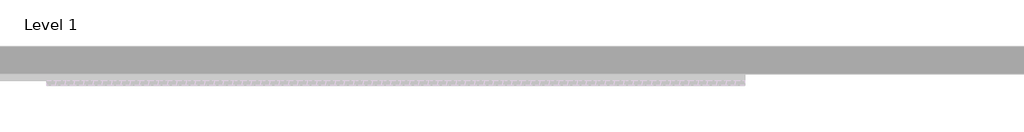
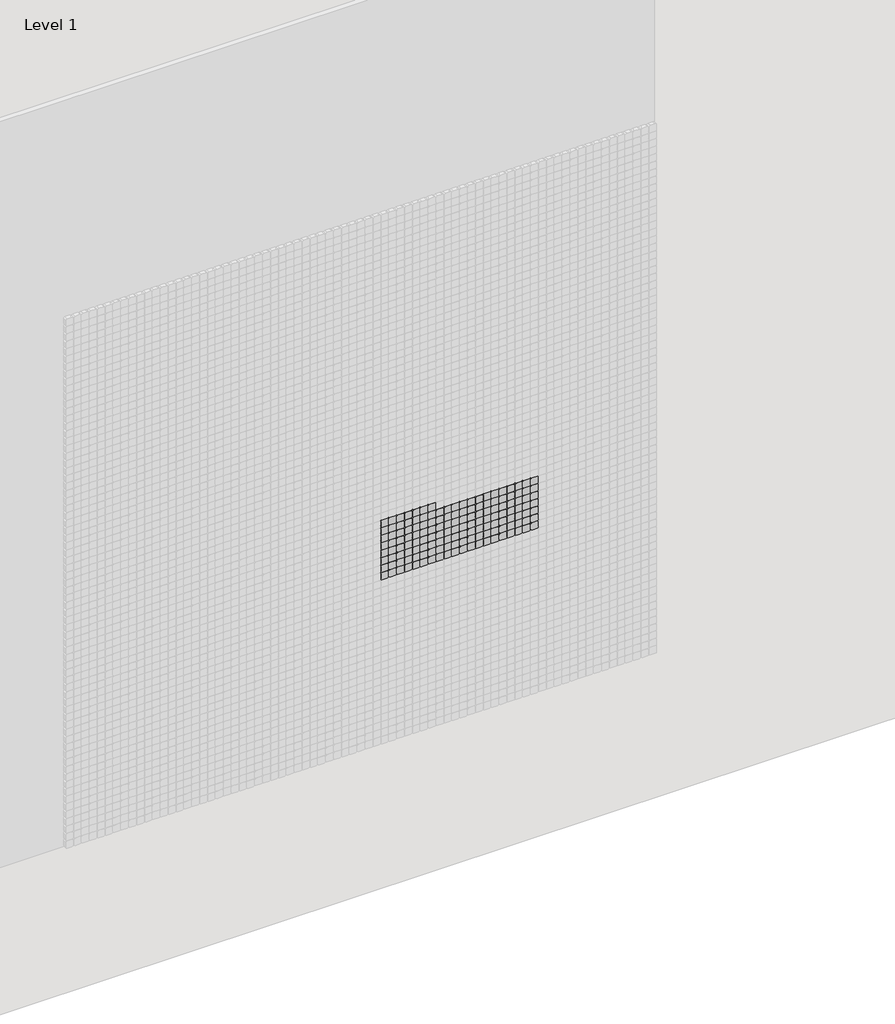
# One storey, part 58 of 71: 147 proxies.
"""IFC4 building model written with IfcOpenShell, lengths in millimetres."""

from ifc_helpers import new_model, si_unit, origin, place, context, project, spatial, transform, mapped, element, save
from components import generic_models_afde289c

model = new_model("IFC4")

# Units and contexts
model_context = context("Model", 3, world=origin())
ifc_project = project(units=[si_unit("LENGTHUNIT", "METRE", prefix="MILLI")], contexts=[model_context])

# Site, building, storey
site = spatial("IfcSite", under=ifc_project)
building = spatial("IfcBuilding", under=site)
storey = spatial("IfcBuildingStorey", under=building, Name="Level 1", Elevation=0.0)

# Proxies
placement = place(None, origin())
generic_models_shape = generic_models_afde289c(model_context)
element("IfcBuildingElementProxy", 1, Name="Pixel_M : Pixel_M", ObjectType="Pixel_M : Pixel_M", at=placement, inside=storey, context=model_context, shape_type="MappedRepresentation", body=[
    mapped(generic_models_shape, transform((8312.4280941, -75.0, 2466.3566215), x_axis=(1.0, 0.0, 0.0), y_axis=(0.0, 0.0, 1.0), z_axis=(0.0, -1.0, 0.0))),
])
element("IfcBuildingElementProxy", 2, Name="Pixel_M : Pixel_M", ObjectType="Pixel_M : Pixel_M", at=placement, inside=storey, context=model_context, shape_type="MappedRepresentation", body=[
    mapped(generic_models_shape, transform((8262.4280941, -75.0, 2466.3566215), x_axis=(1.0, 0.0, 0.0), y_axis=(0.0, 0.0, 1.0), z_axis=(0.0, -1.0, 0.0))),
])
element("IfcBuildingElementProxy", 3, Name="Pixel_M : Pixel_M", ObjectType="Pixel_M : Pixel_M", at=placement, inside=storey, context=model_context, shape_type="MappedRepresentation", body=[
    mapped(generic_models_shape, transform((8212.4280941, -75.0, 2466.3566215), x_axis=(1.0, 0.0, 0.0), y_axis=(0.0, 0.0, 1.0), z_axis=(0.0, -1.0, 0.0))),
])
element("IfcBuildingElementProxy", 4, Name="Pixel_M : Pixel_M", ObjectType="Pixel_M : Pixel_M", at=placement, inside=storey, context=model_context, shape_type="MappedRepresentation", body=[
    mapped(generic_models_shape, transform((8162.4280941, -75.0, 2466.3566215), x_axis=(1.0, 0.0, 0.0), y_axis=(0.0, 0.0, 1.0), z_axis=(0.0, -1.0, 0.0))),
])
element("IfcBuildingElementProxy", 5, Name="Pixel_M : Pixel_M", ObjectType="Pixel_M : Pixel_M", at=placement, inside=storey, context=model_context, shape_type="MappedRepresentation", body=[
    mapped(generic_models_shape, transform((8112.4280941, -75.0, 2466.3566215), x_axis=(1.0, 0.0, 0.0), y_axis=(0.0, 0.0, 1.0), z_axis=(0.0, -1.0, 0.0))),
])
element("IfcBuildingElementProxy", 6, Name="Pixel_M : Pixel_M", ObjectType="Pixel_M : Pixel_M", at=placement, inside=storey, context=model_context, shape_type="MappedRepresentation", body=[
    mapped(generic_models_shape, transform((8062.4280941, -75.0, 2466.3566215), x_axis=(1.0, 0.0, 0.0), y_axis=(0.0, 0.0, 1.0), z_axis=(0.0, -1.0, 0.0))),
])
element("IfcBuildingElementProxy", 7, Name="Pixel_M : Pixel_M", ObjectType="Pixel_M : Pixel_M", at=placement, inside=storey, context=model_context, shape_type="MappedRepresentation", body=[
    mapped(generic_models_shape, transform((8012.4280941, -75.0, 2466.3566215), x_axis=(1.0, 0.0, 0.0), y_axis=(0.0, 0.0, 1.0), z_axis=(0.0, -1.0, 0.0))),
])
element("IfcBuildingElementProxy", 8, Name="Pixel_M : Pixel_M", ObjectType="Pixel_M : Pixel_M", at=placement, inside=storey, context=model_context, shape_type="MappedRepresentation", body=[
    mapped(generic_models_shape, transform((8962.4280941, -75.0, 2416.3566215), x_axis=(1.0, 0.0, 0.0), y_axis=(0.0, 0.0, 1.0), z_axis=(0.0, -1.0, 0.0))),
])
element("IfcBuildingElementProxy", 9, Name="Pixel_M : Pixel_M", ObjectType="Pixel_M : Pixel_M", at=placement, inside=storey, context=model_context, shape_type="MappedRepresentation", body=[
    mapped(generic_models_shape, transform((8912.4280941, -75.0, 2416.3566215), x_axis=(1.0, 0.0, 0.0), y_axis=(0.0, 0.0, 1.0), z_axis=(0.0, -1.0, 0.0))),
])
element("IfcBuildingElementProxy", 10, Name="Pixel_M : Pixel_M", ObjectType="Pixel_M : Pixel_M", at=placement, inside=storey, context=model_context, shape_type="MappedRepresentation", body=[
    mapped(generic_models_shape, transform((8862.4280941, -75.0, 2416.3566215), x_axis=(1.0, 0.0, 0.0), y_axis=(0.0, 0.0, 1.0), z_axis=(0.0, -1.0, 0.0))),
])
element("IfcBuildingElementProxy", 11, Name="Pixel_M : Pixel_M", ObjectType="Pixel_M : Pixel_M", at=placement, inside=storey, context=model_context, shape_type="MappedRepresentation", body=[
    mapped(generic_models_shape, transform((8812.4280941, -75.0, 2416.3566215), x_axis=(1.0, 0.0, 0.0), y_axis=(0.0, 0.0, 1.0), z_axis=(0.0, -1.0, 0.0))),
])
element("IfcBuildingElementProxy", 12, Name="Pixel_M : Pixel_M", ObjectType="Pixel_M : Pixel_M", at=placement, inside=storey, context=model_context, shape_type="MappedRepresentation", body=[
    mapped(generic_models_shape, transform((8762.4280941, -75.0, 2416.3566215), x_axis=(1.0, 0.0, 0.0), y_axis=(0.0, 0.0, 1.0), z_axis=(0.0, -1.0, 0.0))),
])
element("IfcBuildingElementProxy", 13, Name="Pixel_M : Pixel_M", ObjectType="Pixel_M : Pixel_M", at=placement, inside=storey, context=model_context, shape_type="MappedRepresentation", body=[
    mapped(generic_models_shape, transform((8712.4280941, -75.0, 2416.3566215), x_axis=(1.0, 0.0, 0.0), y_axis=(0.0, 0.0, 1.0), z_axis=(0.0, -1.0, 0.0))),
])
element("IfcBuildingElementProxy", 14, Name="Pixel_M : Pixel_M", ObjectType="Pixel_M : Pixel_M", at=placement, inside=storey, context=model_context, shape_type="MappedRepresentation", body=[
    mapped(generic_models_shape, transform((8662.4280941, -75.0, 2416.3566215), x_axis=(1.0, 0.0, 0.0), y_axis=(0.0, 0.0, 1.0), z_axis=(0.0, -1.0, 0.0))),
])
element("IfcBuildingElementProxy", 15, Name="Pixel_M : Pixel_M", ObjectType="Pixel_M : Pixel_M", at=placement, inside=storey, context=model_context, shape_type="MappedRepresentation", body=[
    mapped(generic_models_shape, transform((8612.4280941, -75.0, 2416.3566215), x_axis=(1.0, 0.0, 0.0), y_axis=(0.0, 0.0, 1.0), z_axis=(0.0, -1.0, 0.0))),
])
element("IfcBuildingElementProxy", 16, Name="Pixel_M : Pixel_M", ObjectType="Pixel_M : Pixel_M", at=placement, inside=storey, context=model_context, shape_type="MappedRepresentation", body=[
    mapped(generic_models_shape, transform((8562.4280941, -75.0, 2416.3566215), x_axis=(1.0, 0.0, 0.0), y_axis=(0.0, 0.0, 1.0), z_axis=(0.0, -1.0, 0.0))),
])
element("IfcBuildingElementProxy", 17, Name="Pixel_M : Pixel_M", ObjectType="Pixel_M : Pixel_M", at=placement, inside=storey, context=model_context, shape_type="MappedRepresentation", body=[
    mapped(generic_models_shape, transform((8512.4280941, -75.0, 2416.3566215), x_axis=(1.0, 0.0, 0.0), y_axis=(0.0, 0.0, 1.0), z_axis=(0.0, -1.0, 0.0))),
])
element("IfcBuildingElementProxy", 18, Name="Pixel_M : Pixel_M", ObjectType="Pixel_M : Pixel_M", at=placement, inside=storey, context=model_context, shape_type="MappedRepresentation", body=[
    mapped(generic_models_shape, transform((8462.4280941, -75.0, 2416.3566215), x_axis=(1.0, 0.0, 0.0), y_axis=(0.0, 0.0, 1.0), z_axis=(0.0, -1.0, 0.0))),
])
element("IfcBuildingElementProxy", 19, Name="Pixel_M : Pixel_M", ObjectType="Pixel_M : Pixel_M", at=placement, inside=storey, context=model_context, shape_type="MappedRepresentation", body=[
    mapped(generic_models_shape, transform((8412.4280941, -75.0, 2416.3566215), x_axis=(1.0, 0.0, 0.0), y_axis=(0.0, 0.0, 1.0), z_axis=(0.0, -1.0, 0.0))),
])
element("IfcBuildingElementProxy", 20, Name="Pixel_M : Pixel_M", ObjectType="Pixel_M : Pixel_M", at=placement, inside=storey, context=model_context, shape_type="MappedRepresentation", body=[
    mapped(generic_models_shape, transform((8362.4280941, -75.0, 2416.3566215), x_axis=(1.0, 0.0, 0.0), y_axis=(0.0, 0.0, 1.0), z_axis=(0.0, -1.0, 0.0))),
])
element("IfcBuildingElementProxy", 21, Name="Pixel_M : Pixel_M", ObjectType="Pixel_M : Pixel_M", at=placement, inside=storey, context=model_context, shape_type="MappedRepresentation", body=[
    mapped(generic_models_shape, transform((8312.4280941, -75.0, 2416.3566215), x_axis=(1.0, 0.0, 0.0), y_axis=(0.0, 0.0, 1.0), z_axis=(0.0, -1.0, 0.0))),
])
element("IfcBuildingElementProxy", 22, Name="Pixel_M : Pixel_M", ObjectType="Pixel_M : Pixel_M", at=placement, inside=storey, context=model_context, shape_type="MappedRepresentation", body=[
    mapped(generic_models_shape, transform((8262.4280941, -75.0, 2416.3566215), x_axis=(1.0, 0.0, 0.0), y_axis=(0.0, 0.0, 1.0), z_axis=(0.0, -1.0, 0.0))),
])
element("IfcBuildingElementProxy", 23, Name="Pixel_M : Pixel_M", ObjectType="Pixel_M : Pixel_M", at=placement, inside=storey, context=model_context, shape_type="MappedRepresentation", body=[
    mapped(generic_models_shape, transform((8212.4280941, -75.0, 2416.3566215), x_axis=(1.0, 0.0, 0.0), y_axis=(0.0, 0.0, 1.0), z_axis=(0.0, -1.0, 0.0))),
])
element("IfcBuildingElementProxy", 24, Name="Pixel_M : Pixel_M", ObjectType="Pixel_M : Pixel_M", at=placement, inside=storey, context=model_context, shape_type="MappedRepresentation", body=[
    mapped(generic_models_shape, transform((8162.4280941, -75.0, 2416.3566215), x_axis=(1.0, 0.0, 0.0), y_axis=(0.0, 0.0, 1.0), z_axis=(0.0, -1.0, 0.0))),
])
element("IfcBuildingElementProxy", 25, Name="Pixel_M : Pixel_M", ObjectType="Pixel_M : Pixel_M", at=placement, inside=storey, context=model_context, shape_type="MappedRepresentation", body=[
    mapped(generic_models_shape, transform((8112.4280941, -75.0, 2416.3566215), x_axis=(1.0, 0.0, 0.0), y_axis=(0.0, 0.0, 1.0), z_axis=(0.0, -1.0, 0.0))),
])
element("IfcBuildingElementProxy", 26, Name="Pixel_M : Pixel_M", ObjectType="Pixel_M : Pixel_M", at=placement, inside=storey, context=model_context, shape_type="MappedRepresentation", body=[
    mapped(generic_models_shape, transform((8062.4280941, -75.0, 2416.3566215), x_axis=(1.0, 0.0, 0.0), y_axis=(0.0, 0.0, 1.0), z_axis=(0.0, -1.0, 0.0))),
])
element("IfcBuildingElementProxy", 27, Name="Pixel_M : Pixel_M", ObjectType="Pixel_M : Pixel_M", at=placement, inside=storey, context=model_context, shape_type="MappedRepresentation", body=[
    mapped(generic_models_shape, transform((8012.4280941, -75.0, 2416.3566215), x_axis=(1.0, 0.0, 0.0), y_axis=(0.0, 0.0, 1.0), z_axis=(0.0, -1.0, 0.0))),
])
element("IfcBuildingElementProxy", 28, Name="Pixel_M : Pixel_M", ObjectType="Pixel_M : Pixel_M", at=placement, inside=storey, context=model_context, shape_type="MappedRepresentation", body=[
    mapped(generic_models_shape, transform((8962.4280941, -75.0, 2366.3566215), x_axis=(1.0, 0.0, 0.0), y_axis=(0.0, 0.0, 1.0), z_axis=(0.0, -1.0, 0.0))),
])
element("IfcBuildingElementProxy", 29, Name="Pixel_M : Pixel_M", ObjectType="Pixel_M : Pixel_M", at=placement, inside=storey, context=model_context, shape_type="MappedRepresentation", body=[
    mapped(generic_models_shape, transform((8912.4280941, -75.0, 2366.3566215), x_axis=(1.0, 0.0, 0.0), y_axis=(0.0, 0.0, 1.0), z_axis=(0.0, -1.0, 0.0))),
])
element("IfcBuildingElementProxy", 30, Name="Pixel_M : Pixel_M", ObjectType="Pixel_M : Pixel_M", at=placement, inside=storey, context=model_context, shape_type="MappedRepresentation", body=[
    mapped(generic_models_shape, transform((8862.4280941, -75.0, 2366.3566215), x_axis=(1.0, 0.0, 0.0), y_axis=(0.0, 0.0, 1.0), z_axis=(0.0, -1.0, 0.0))),
])
element("IfcBuildingElementProxy", 31, Name="Pixel_M : Pixel_M", ObjectType="Pixel_M : Pixel_M", at=placement, inside=storey, context=model_context, shape_type="MappedRepresentation", body=[
    mapped(generic_models_shape, transform((8812.4280941, -75.0, 2366.3566215), x_axis=(1.0, 0.0, 0.0), y_axis=(0.0, 0.0, 1.0), z_axis=(0.0, -1.0, 0.0))),
])
element("IfcBuildingElementProxy", 32, Name="Pixel_M : Pixel_M", ObjectType="Pixel_M : Pixel_M", at=placement, inside=storey, context=model_context, shape_type="MappedRepresentation", body=[
    mapped(generic_models_shape, transform((8762.4280941, -75.0, 2366.3566215), x_axis=(1.0, 0.0, 0.0), y_axis=(0.0, 0.0, 1.0), z_axis=(0.0, -1.0, 0.0))),
])
element("IfcBuildingElementProxy", 33, Name="Pixel_M : Pixel_M", ObjectType="Pixel_M : Pixel_M", at=placement, inside=storey, context=model_context, shape_type="MappedRepresentation", body=[
    mapped(generic_models_shape, transform((8712.4280941, -75.0, 2366.3566215), x_axis=(1.0, 0.0, 0.0), y_axis=(0.0, 0.0, 1.0), z_axis=(0.0, -1.0, 0.0))),
])
element("IfcBuildingElementProxy", 34, Name="Pixel_M : Pixel_M", ObjectType="Pixel_M : Pixel_M", at=placement, inside=storey, context=model_context, shape_type="MappedRepresentation", body=[
    mapped(generic_models_shape, transform((8662.4280941, -75.0, 2366.3566215), x_axis=(1.0, 0.0, 0.0), y_axis=(0.0, 0.0, 1.0), z_axis=(0.0, -1.0, 0.0))),
])
element("IfcBuildingElementProxy", 35, Name="Pixel_M : Pixel_M", ObjectType="Pixel_M : Pixel_M", at=placement, inside=storey, context=model_context, shape_type="MappedRepresentation", body=[
    mapped(generic_models_shape, transform((8612.4280941, -75.0, 2366.3566215), x_axis=(1.0, 0.0, 0.0), y_axis=(0.0, 0.0, 1.0), z_axis=(0.0, -1.0, 0.0))),
])
element("IfcBuildingElementProxy", 36, Name="Pixel_M : Pixel_M", ObjectType="Pixel_M : Pixel_M", at=placement, inside=storey, context=model_context, shape_type="MappedRepresentation", body=[
    mapped(generic_models_shape, transform((8562.4280941, -75.0, 2366.3566215), x_axis=(1.0, 0.0, 0.0), y_axis=(0.0, 0.0, 1.0), z_axis=(0.0, -1.0, 0.0))),
])
element("IfcBuildingElementProxy", 37, Name="Pixel_M : Pixel_M", ObjectType="Pixel_M : Pixel_M", at=placement, inside=storey, context=model_context, shape_type="MappedRepresentation", body=[
    mapped(generic_models_shape, transform((8512.4280941, -75.0, 2366.3566215), x_axis=(1.0, 0.0, 0.0), y_axis=(0.0, 0.0, 1.0), z_axis=(0.0, -1.0, 0.0))),
])
element("IfcBuildingElementProxy", 38, Name="Pixel_M : Pixel_M", ObjectType="Pixel_M : Pixel_M", at=placement, inside=storey, context=model_context, shape_type="MappedRepresentation", body=[
    mapped(generic_models_shape, transform((8462.4280941, -75.0, 2366.3566215), x_axis=(1.0, 0.0, 0.0), y_axis=(0.0, 0.0, 1.0), z_axis=(0.0, -1.0, 0.0))),
])
element("IfcBuildingElementProxy", 39, Name="Pixel_M : Pixel_M", ObjectType="Pixel_M : Pixel_M", at=placement, inside=storey, context=model_context, shape_type="MappedRepresentation", body=[
    mapped(generic_models_shape, transform((8412.4280941, -75.0, 2366.3566215), x_axis=(1.0, 0.0, 0.0), y_axis=(0.0, 0.0, 1.0), z_axis=(0.0, -1.0, 0.0))),
])
element("IfcBuildingElementProxy", 40, Name="Pixel_M : Pixel_M", ObjectType="Pixel_M : Pixel_M", at=placement, inside=storey, context=model_context, shape_type="MappedRepresentation", body=[
    mapped(generic_models_shape, transform((8362.4280941, -75.0, 2366.3566215), x_axis=(1.0, 0.0, 0.0), y_axis=(0.0, 0.0, 1.0), z_axis=(0.0, -1.0, 0.0))),
])
element("IfcBuildingElementProxy", 41, Name="Pixel_M : Pixel_M", ObjectType="Pixel_M : Pixel_M", at=placement, inside=storey, context=model_context, shape_type="MappedRepresentation", body=[
    mapped(generic_models_shape, transform((8312.4280941, -75.0, 2366.3566215), x_axis=(1.0, 0.0, 0.0), y_axis=(0.0, 0.0, 1.0), z_axis=(0.0, -1.0, 0.0))),
])
element("IfcBuildingElementProxy", 42, Name="Pixel_M : Pixel_M", ObjectType="Pixel_M : Pixel_M", at=placement, inside=storey, context=model_context, shape_type="MappedRepresentation", body=[
    mapped(generic_models_shape, transform((8262.4280941, -75.0, 2366.3566215), x_axis=(1.0, 0.0, 0.0), y_axis=(0.0, 0.0, 1.0), z_axis=(0.0, -1.0, 0.0))),
])
element("IfcBuildingElementProxy", 43, Name="Pixel_M : Pixel_M", ObjectType="Pixel_M : Pixel_M", at=placement, inside=storey, context=model_context, shape_type="MappedRepresentation", body=[
    mapped(generic_models_shape, transform((8212.4280941, -75.0, 2366.3566215), x_axis=(1.0, 0.0, 0.0), y_axis=(0.0, 0.0, 1.0), z_axis=(0.0, -1.0, 0.0))),
])
element("IfcBuildingElementProxy", 44, Name="Pixel_M : Pixel_M", ObjectType="Pixel_M : Pixel_M", at=placement, inside=storey, context=model_context, shape_type="MappedRepresentation", body=[
    mapped(generic_models_shape, transform((8162.4280941, -75.0, 2366.3566215), x_axis=(1.0, 0.0, 0.0), y_axis=(0.0, 0.0, 1.0), z_axis=(0.0, -1.0, 0.0))),
])
element("IfcBuildingElementProxy", 45, Name="Pixel_M : Pixel_M", ObjectType="Pixel_M : Pixel_M", at=placement, inside=storey, context=model_context, shape_type="MappedRepresentation", body=[
    mapped(generic_models_shape, transform((8112.4280941, -75.0, 2366.3566215), x_axis=(1.0, 0.0, 0.0), y_axis=(0.0, 0.0, 1.0), z_axis=(0.0, -1.0, 0.0))),
])
element("IfcBuildingElementProxy", 46, Name="Pixel_M : Pixel_M", ObjectType="Pixel_M : Pixel_M", at=placement, inside=storey, context=model_context, shape_type="MappedRepresentation", body=[
    mapped(generic_models_shape, transform((8062.4280941, -75.0, 2366.3566215), x_axis=(1.0, 0.0, 0.0), y_axis=(0.0, 0.0, 1.0), z_axis=(0.0, -1.0, 0.0))),
])
element("IfcBuildingElementProxy", 47, Name="Pixel_M : Pixel_M", ObjectType="Pixel_M : Pixel_M", at=placement, inside=storey, context=model_context, shape_type="MappedRepresentation", body=[
    mapped(generic_models_shape, transform((8012.4280941, -75.0, 2366.3566215), x_axis=(1.0, 0.0, 0.0), y_axis=(0.0, 0.0, 1.0), z_axis=(0.0, -1.0, 0.0))),
])
element("IfcBuildingElementProxy", 48, Name="Pixel_M : Pixel_M", ObjectType="Pixel_M : Pixel_M", at=placement, inside=storey, context=model_context, shape_type="MappedRepresentation", body=[
    mapped(generic_models_shape, transform((8962.4280941, -75.0, 2316.3566215), x_axis=(1.0, 0.0, 0.0), y_axis=(0.0, 0.0, 1.0), z_axis=(0.0, -1.0, 0.0))),
])
element("IfcBuildingElementProxy", 49, Name="Pixel_M : Pixel_M", ObjectType="Pixel_M : Pixel_M", at=placement, inside=storey, context=model_context, shape_type="MappedRepresentation", body=[
    mapped(generic_models_shape, transform((8912.4280941, -75.0, 2316.3566215), x_axis=(1.0, 0.0, 0.0), y_axis=(0.0, 0.0, 1.0), z_axis=(0.0, -1.0, 0.0))),
])
element("IfcBuildingElementProxy", 50, Name="Pixel_M : Pixel_M", ObjectType="Pixel_M : Pixel_M", at=placement, inside=storey, context=model_context, shape_type="MappedRepresentation", body=[
    mapped(generic_models_shape, transform((8862.4280941, -75.0, 2316.3566215), x_axis=(1.0, 0.0, 0.0), y_axis=(0.0, 0.0, 1.0), z_axis=(0.0, -1.0, 0.0))),
])
element("IfcBuildingElementProxy", 51, Name="Pixel_M : Pixel_M", ObjectType="Pixel_M : Pixel_M", at=placement, inside=storey, context=model_context, shape_type="MappedRepresentation", body=[
    mapped(generic_models_shape, transform((8812.4280941, -75.0, 2316.3566215), x_axis=(1.0, 0.0, 0.0), y_axis=(0.0, 0.0, 1.0), z_axis=(0.0, -1.0, 0.0))),
])
element("IfcBuildingElementProxy", 52, Name="Pixel_M : Pixel_M", ObjectType="Pixel_M : Pixel_M", at=placement, inside=storey, context=model_context, shape_type="MappedRepresentation", body=[
    mapped(generic_models_shape, transform((8762.4280941, -75.0, 2316.3566215), x_axis=(1.0, 0.0, 0.0), y_axis=(0.0, 0.0, 1.0), z_axis=(0.0, -1.0, 0.0))),
])
element("IfcBuildingElementProxy", 53, Name="Pixel_M : Pixel_M", ObjectType="Pixel_M : Pixel_M", at=placement, inside=storey, context=model_context, shape_type="MappedRepresentation", body=[
    mapped(generic_models_shape, transform((8712.4280941, -75.0, 2316.3566215), x_axis=(1.0, 0.0, 0.0), y_axis=(0.0, 0.0, 1.0), z_axis=(0.0, -1.0, 0.0))),
])
element("IfcBuildingElementProxy", 54, Name="Pixel_M : Pixel_M", ObjectType="Pixel_M : Pixel_M", at=placement, inside=storey, context=model_context, shape_type="MappedRepresentation", body=[
    mapped(generic_models_shape, transform((8662.4280941, -75.0, 2316.3566215), x_axis=(1.0, 0.0, 0.0), y_axis=(0.0, 0.0, 1.0), z_axis=(0.0, -1.0, 0.0))),
])
element("IfcBuildingElementProxy", 55, Name="Pixel_M : Pixel_M", ObjectType="Pixel_M : Pixel_M", at=placement, inside=storey, context=model_context, shape_type="MappedRepresentation", body=[
    mapped(generic_models_shape, transform((8612.4280941, -75.0, 2316.3566215), x_axis=(1.0, 0.0, 0.0), y_axis=(0.0, 0.0, 1.0), z_axis=(0.0, -1.0, 0.0))),
])
element("IfcBuildingElementProxy", 56, Name="Pixel_M : Pixel_M", ObjectType="Pixel_M : Pixel_M", at=placement, inside=storey, context=model_context, shape_type="MappedRepresentation", body=[
    mapped(generic_models_shape, transform((8562.4280941, -75.0, 2316.3566215), x_axis=(1.0, 0.0, 0.0), y_axis=(0.0, 0.0, 1.0), z_axis=(0.0, -1.0, 0.0))),
])
element("IfcBuildingElementProxy", 57, Name="Pixel_M : Pixel_M", ObjectType="Pixel_M : Pixel_M", at=placement, inside=storey, context=model_context, shape_type="MappedRepresentation", body=[
    mapped(generic_models_shape, transform((8512.4280941, -75.0, 2316.3566215), x_axis=(1.0, 0.0, 0.0), y_axis=(0.0, 0.0, 1.0), z_axis=(0.0, -1.0, 0.0))),
])
element("IfcBuildingElementProxy", 58, Name="Pixel_M : Pixel_M", ObjectType="Pixel_M : Pixel_M", at=placement, inside=storey, context=model_context, shape_type="MappedRepresentation", body=[
    mapped(generic_models_shape, transform((8462.4280941, -75.0, 2316.3566215), x_axis=(1.0, 0.0, 0.0), y_axis=(0.0, 0.0, 1.0), z_axis=(0.0, -1.0, 0.0))),
])
element("IfcBuildingElementProxy", 59, Name="Pixel_M : Pixel_M", ObjectType="Pixel_M : Pixel_M", at=placement, inside=storey, context=model_context, shape_type="MappedRepresentation", body=[
    mapped(generic_models_shape, transform((8412.4280941, -75.0, 2316.3566215), x_axis=(1.0, 0.0, 0.0), y_axis=(0.0, 0.0, 1.0), z_axis=(0.0, -1.0, 0.0))),
])
element("IfcBuildingElementProxy", 60, Name="Pixel_M : Pixel_M", ObjectType="Pixel_M : Pixel_M", at=placement, inside=storey, context=model_context, shape_type="MappedRepresentation", body=[
    mapped(generic_models_shape, transform((8362.4280941, -75.0, 2316.3566215), x_axis=(1.0, 0.0, 0.0), y_axis=(0.0, 0.0, 1.0), z_axis=(0.0, -1.0, 0.0))),
])
element("IfcBuildingElementProxy", 61, Name="Pixel_M : Pixel_M", ObjectType="Pixel_M : Pixel_M", at=placement, inside=storey, context=model_context, shape_type="MappedRepresentation", body=[
    mapped(generic_models_shape, transform((8312.4280941, -75.0, 2316.3566215), x_axis=(1.0, 0.0, 0.0), y_axis=(0.0, 0.0, 1.0), z_axis=(0.0, -1.0, 0.0))),
])
element("IfcBuildingElementProxy", 62, Name="Pixel_M : Pixel_M", ObjectType="Pixel_M : Pixel_M", at=placement, inside=storey, context=model_context, shape_type="MappedRepresentation", body=[
    mapped(generic_models_shape, transform((8262.4280941, -75.0, 2316.3566215), x_axis=(1.0, 0.0, 0.0), y_axis=(0.0, 0.0, 1.0), z_axis=(0.0, -1.0, 0.0))),
])
element("IfcBuildingElementProxy", 63, Name="Pixel_M : Pixel_M", ObjectType="Pixel_M : Pixel_M", at=placement, inside=storey, context=model_context, shape_type="MappedRepresentation", body=[
    mapped(generic_models_shape, transform((8212.4280941, -75.0, 2316.3566215), x_axis=(1.0, 0.0, 0.0), y_axis=(0.0, 0.0, 1.0), z_axis=(0.0, -1.0, 0.0))),
])
element("IfcBuildingElementProxy", 64, Name="Pixel_M : Pixel_M", ObjectType="Pixel_M : Pixel_M", at=placement, inside=storey, context=model_context, shape_type="MappedRepresentation", body=[
    mapped(generic_models_shape, transform((8162.4280941, -75.0, 2316.3566215), x_axis=(1.0, 0.0, 0.0), y_axis=(0.0, 0.0, 1.0), z_axis=(0.0, -1.0, 0.0))),
])
element("IfcBuildingElementProxy", 65, Name="Pixel_M : Pixel_M", ObjectType="Pixel_M : Pixel_M", at=placement, inside=storey, context=model_context, shape_type="MappedRepresentation", body=[
    mapped(generic_models_shape, transform((8112.4280941, -75.0, 2316.3566215), x_axis=(1.0, 0.0, 0.0), y_axis=(0.0, 0.0, 1.0), z_axis=(0.0, -1.0, 0.0))),
])
element("IfcBuildingElementProxy", 66, Name="Pixel_M : Pixel_M", ObjectType="Pixel_M : Pixel_M", at=placement, inside=storey, context=model_context, shape_type="MappedRepresentation", body=[
    mapped(generic_models_shape, transform((8062.4280941, -75.0, 2316.3566215), x_axis=(1.0, 0.0, 0.0), y_axis=(0.0, 0.0, 1.0), z_axis=(0.0, -1.0, 0.0))),
])
element("IfcBuildingElementProxy", 67, Name="Pixel_M : Pixel_M", ObjectType="Pixel_M : Pixel_M", at=placement, inside=storey, context=model_context, shape_type="MappedRepresentation", body=[
    mapped(generic_models_shape, transform((8012.4280941, -75.0, 2316.3566215), x_axis=(1.0, 0.0, 0.0), y_axis=(0.0, 0.0, 1.0), z_axis=(0.0, -1.0, 0.0))),
])
element("IfcBuildingElementProxy", 68, Name="Pixel_M : Pixel_M", ObjectType="Pixel_M : Pixel_M", at=placement, inside=storey, context=model_context, shape_type="MappedRepresentation", body=[
    mapped(generic_models_shape, transform((8962.4280941, -75.0, 2266.3566215), x_axis=(1.0, 0.0, 0.0), y_axis=(0.0, 0.0, 1.0), z_axis=(0.0, -1.0, 0.0))),
])
element("IfcBuildingElementProxy", 69, Name="Pixel_M : Pixel_M", ObjectType="Pixel_M : Pixel_M", at=placement, inside=storey, context=model_context, shape_type="MappedRepresentation", body=[
    mapped(generic_models_shape, transform((8912.4280941, -75.0, 2266.3566215), x_axis=(1.0, 0.0, 0.0), y_axis=(0.0, 0.0, 1.0), z_axis=(0.0, -1.0, 0.0))),
])
element("IfcBuildingElementProxy", 70, Name="Pixel_M : Pixel_M", ObjectType="Pixel_M : Pixel_M", at=placement, inside=storey, context=model_context, shape_type="MappedRepresentation", body=[
    mapped(generic_models_shape, transform((8862.4280941, -75.0, 2266.3566215), x_axis=(1.0, 0.0, 0.0), y_axis=(0.0, 0.0, 1.0), z_axis=(0.0, -1.0, 0.0))),
])
element("IfcBuildingElementProxy", 71, Name="Pixel_M : Pixel_M", ObjectType="Pixel_M : Pixel_M", at=placement, inside=storey, context=model_context, shape_type="MappedRepresentation", body=[
    mapped(generic_models_shape, transform((8812.4280941, -75.0, 2266.3566215), x_axis=(1.0, 0.0, 0.0), y_axis=(0.0, 0.0, 1.0), z_axis=(0.0, -1.0, 0.0))),
])
element("IfcBuildingElementProxy", 72, Name="Pixel_M : Pixel_M", ObjectType="Pixel_M : Pixel_M", at=placement, inside=storey, context=model_context, shape_type="MappedRepresentation", body=[
    mapped(generic_models_shape, transform((8762.4280941, -75.0, 2266.3566215), x_axis=(1.0, 0.0, 0.0), y_axis=(0.0, 0.0, 1.0), z_axis=(0.0, -1.0, 0.0))),
])
element("IfcBuildingElementProxy", 73, Name="Pixel_M : Pixel_M", ObjectType="Pixel_M : Pixel_M", at=placement, inside=storey, context=model_context, shape_type="MappedRepresentation", body=[
    mapped(generic_models_shape, transform((8712.4280941, -75.0, 2266.3566215), x_axis=(1.0, 0.0, 0.0), y_axis=(0.0, 0.0, 1.0), z_axis=(0.0, -1.0, 0.0))),
])
element("IfcBuildingElementProxy", 74, Name="Pixel_M : Pixel_M", ObjectType="Pixel_M : Pixel_M", at=placement, inside=storey, context=model_context, shape_type="MappedRepresentation", body=[
    mapped(generic_models_shape, transform((8662.4280941, -75.0, 2266.3566215), x_axis=(1.0, 0.0, 0.0), y_axis=(0.0, 0.0, 1.0), z_axis=(0.0, -1.0, 0.0))),
])
element("IfcBuildingElementProxy", 75, Name="Pixel_M : Pixel_M", ObjectType="Pixel_M : Pixel_M", at=placement, inside=storey, context=model_context, shape_type="MappedRepresentation", body=[
    mapped(generic_models_shape, transform((8612.4280941, -75.0, 2266.3566215), x_axis=(1.0, 0.0, 0.0), y_axis=(0.0, 0.0, 1.0), z_axis=(0.0, -1.0, 0.0))),
])
element("IfcBuildingElementProxy", 76, Name="Pixel_M : Pixel_M", ObjectType="Pixel_M : Pixel_M", at=placement, inside=storey, context=model_context, shape_type="MappedRepresentation", body=[
    mapped(generic_models_shape, transform((8562.4280941, -75.0, 2266.3566215), x_axis=(1.0, 0.0, 0.0), y_axis=(0.0, 0.0, 1.0), z_axis=(0.0, -1.0, 0.0))),
])
element("IfcBuildingElementProxy", 77, Name="Pixel_M : Pixel_M", ObjectType="Pixel_M : Pixel_M", at=placement, inside=storey, context=model_context, shape_type="MappedRepresentation", body=[
    mapped(generic_models_shape, transform((8512.4280941, -75.0, 2266.3566215), x_axis=(1.0, 0.0, 0.0), y_axis=(0.0, 0.0, 1.0), z_axis=(0.0, -1.0, 0.0))),
])
element("IfcBuildingElementProxy", 78, Name="Pixel_M : Pixel_M", ObjectType="Pixel_M : Pixel_M", at=placement, inside=storey, context=model_context, shape_type="MappedRepresentation", body=[
    mapped(generic_models_shape, transform((8462.4280941, -75.0, 2266.3566215), x_axis=(1.0, 0.0, 0.0), y_axis=(0.0, 0.0, 1.0), z_axis=(0.0, -1.0, 0.0))),
])
element("IfcBuildingElementProxy", 79, Name="Pixel_M : Pixel_M", ObjectType="Pixel_M : Pixel_M", at=placement, inside=storey, context=model_context, shape_type="MappedRepresentation", body=[
    mapped(generic_models_shape, transform((8412.4280941, -75.0, 2266.3566215), x_axis=(1.0, 0.0, 0.0), y_axis=(0.0, 0.0, 1.0), z_axis=(0.0, -1.0, 0.0))),
])
element("IfcBuildingElementProxy", 80, Name="Pixel_M : Pixel_M", ObjectType="Pixel_M : Pixel_M", at=placement, inside=storey, context=model_context, shape_type="MappedRepresentation", body=[
    mapped(generic_models_shape, transform((8362.4280941, -75.0, 2266.3566215), x_axis=(1.0, 0.0, 0.0), y_axis=(0.0, 0.0, 1.0), z_axis=(0.0, -1.0, 0.0))),
])
element("IfcBuildingElementProxy", 81, Name="Pixel_M : Pixel_M", ObjectType="Pixel_M : Pixel_M", at=placement, inside=storey, context=model_context, shape_type="MappedRepresentation", body=[
    mapped(generic_models_shape, transform((8312.4280941, -75.0, 2266.3566215), x_axis=(1.0, 0.0, 0.0), y_axis=(0.0, 0.0, 1.0), z_axis=(0.0, -1.0, 0.0))),
])
element("IfcBuildingElementProxy", 82, Name="Pixel_M : Pixel_M", ObjectType="Pixel_M : Pixel_M", at=placement, inside=storey, context=model_context, shape_type="MappedRepresentation", body=[
    mapped(generic_models_shape, transform((8262.4280941, -75.0, 2266.3566215), x_axis=(1.0, 0.0, 0.0), y_axis=(0.0, 0.0, 1.0), z_axis=(0.0, -1.0, 0.0))),
])
element("IfcBuildingElementProxy", 83, Name="Pixel_M : Pixel_M", ObjectType="Pixel_M : Pixel_M", at=placement, inside=storey, context=model_context, shape_type="MappedRepresentation", body=[
    mapped(generic_models_shape, transform((8212.4280941, -75.0, 2266.3566215), x_axis=(1.0, 0.0, 0.0), y_axis=(0.0, 0.0, 1.0), z_axis=(0.0, -1.0, 0.0))),
])
element("IfcBuildingElementProxy", 84, Name="Pixel_M : Pixel_M", ObjectType="Pixel_M : Pixel_M", at=placement, inside=storey, context=model_context, shape_type="MappedRepresentation", body=[
    mapped(generic_models_shape, transform((8162.4280941, -75.0, 2266.3566215), x_axis=(1.0, 0.0, 0.0), y_axis=(0.0, 0.0, 1.0), z_axis=(0.0, -1.0, 0.0))),
])
element("IfcBuildingElementProxy", 85, Name="Pixel_M : Pixel_M", ObjectType="Pixel_M : Pixel_M", at=placement, inside=storey, context=model_context, shape_type="MappedRepresentation", body=[
    mapped(generic_models_shape, transform((8112.4280941, -75.0, 2266.3566215), x_axis=(1.0, 0.0, 0.0), y_axis=(0.0, 0.0, 1.0), z_axis=(0.0, -1.0, 0.0))),
])
element("IfcBuildingElementProxy", 86, Name="Pixel_M : Pixel_M", ObjectType="Pixel_M : Pixel_M", at=placement, inside=storey, context=model_context, shape_type="MappedRepresentation", body=[
    mapped(generic_models_shape, transform((8062.4280941, -75.0, 2266.3566215), x_axis=(1.0, 0.0, 0.0), y_axis=(0.0, 0.0, 1.0), z_axis=(0.0, -1.0, 0.0))),
])
element("IfcBuildingElementProxy", 87, Name="Pixel_M : Pixel_M", ObjectType="Pixel_M : Pixel_M", at=placement, inside=storey, context=model_context, shape_type="MappedRepresentation", body=[
    mapped(generic_models_shape, transform((8012.4280941, -75.0, 2266.3566215), x_axis=(1.0, 0.0, 0.0), y_axis=(0.0, 0.0, 1.0), z_axis=(0.0, -1.0, 0.0))),
])
element("IfcBuildingElementProxy", 88, Name="Pixel_M : Pixel_M", ObjectType="Pixel_M : Pixel_M", at=placement, inside=storey, context=model_context, shape_type="MappedRepresentation", body=[
    mapped(generic_models_shape, transform((8962.4280941, -75.0, 2216.3566215), x_axis=(1.0, 0.0, 0.0), y_axis=(0.0, 0.0, 1.0), z_axis=(0.0, -1.0, 0.0))),
])
element("IfcBuildingElementProxy", 89, Name="Pixel_M : Pixel_M", ObjectType="Pixel_M : Pixel_M", at=placement, inside=storey, context=model_context, shape_type="MappedRepresentation", body=[
    mapped(generic_models_shape, transform((8912.4280941, -75.0, 2216.3566215), x_axis=(1.0, 0.0, 0.0), y_axis=(0.0, 0.0, 1.0), z_axis=(0.0, -1.0, 0.0))),
])
element("IfcBuildingElementProxy", 90, Name="Pixel_M : Pixel_M", ObjectType="Pixel_M : Pixel_M", at=placement, inside=storey, context=model_context, shape_type="MappedRepresentation", body=[
    mapped(generic_models_shape, transform((8862.4280941, -75.0, 2216.3566215), x_axis=(1.0, 0.0, 0.0), y_axis=(0.0, 0.0, 1.0), z_axis=(0.0, -1.0, 0.0))),
])
element("IfcBuildingElementProxy", 91, Name="Pixel_M : Pixel_M", ObjectType="Pixel_M : Pixel_M", at=placement, inside=storey, context=model_context, shape_type="MappedRepresentation", body=[
    mapped(generic_models_shape, transform((8812.4280941, -75.0, 2216.3566215), x_axis=(1.0, 0.0, 0.0), y_axis=(0.0, 0.0, 1.0), z_axis=(0.0, -1.0, 0.0))),
])
element("IfcBuildingElementProxy", 92, Name="Pixel_M : Pixel_M", ObjectType="Pixel_M : Pixel_M", at=placement, inside=storey, context=model_context, shape_type="MappedRepresentation", body=[
    mapped(generic_models_shape, transform((8762.4280941, -75.0, 2216.3566215), x_axis=(1.0, 0.0, 0.0), y_axis=(0.0, 0.0, 1.0), z_axis=(0.0, -1.0, 0.0))),
])
element("IfcBuildingElementProxy", 93, Name="Pixel_M : Pixel_M", ObjectType="Pixel_M : Pixel_M", at=placement, inside=storey, context=model_context, shape_type="MappedRepresentation", body=[
    mapped(generic_models_shape, transform((8712.4280941, -75.0, 2216.3566215), x_axis=(1.0, 0.0, 0.0), y_axis=(0.0, 0.0, 1.0), z_axis=(0.0, -1.0, 0.0))),
])
element("IfcBuildingElementProxy", 94, Name="Pixel_M : Pixel_M", ObjectType="Pixel_M : Pixel_M", at=placement, inside=storey, context=model_context, shape_type="MappedRepresentation", body=[
    mapped(generic_models_shape, transform((8662.4280941, -75.0, 2216.3566215), x_axis=(1.0, 0.0, 0.0), y_axis=(0.0, 0.0, 1.0), z_axis=(0.0, -1.0, 0.0))),
])
element("IfcBuildingElementProxy", 95, Name="Pixel_M : Pixel_M", ObjectType="Pixel_M : Pixel_M", at=placement, inside=storey, context=model_context, shape_type="MappedRepresentation", body=[
    mapped(generic_models_shape, transform((8612.4280941, -75.0, 2216.3566215), x_axis=(1.0, 0.0, 0.0), y_axis=(0.0, 0.0, 1.0), z_axis=(0.0, -1.0, 0.0))),
])
element("IfcBuildingElementProxy", 96, Name="Pixel_M : Pixel_M", ObjectType="Pixel_M : Pixel_M", at=placement, inside=storey, context=model_context, shape_type="MappedRepresentation", body=[
    mapped(generic_models_shape, transform((8562.4280941, -75.0, 2216.3566215), x_axis=(1.0, 0.0, 0.0), y_axis=(0.0, 0.0, 1.0), z_axis=(0.0, -1.0, 0.0))),
])
element("IfcBuildingElementProxy", 97, Name="Pixel_M : Pixel_M", ObjectType="Pixel_M : Pixel_M", at=placement, inside=storey, context=model_context, shape_type="MappedRepresentation", body=[
    mapped(generic_models_shape, transform((8512.4280941, -75.0, 2216.3566215), x_axis=(1.0, 0.0, 0.0), y_axis=(0.0, 0.0, 1.0), z_axis=(0.0, -1.0, 0.0))),
])
element("IfcBuildingElementProxy", 98, Name="Pixel_M : Pixel_M", ObjectType="Pixel_M : Pixel_M", at=placement, inside=storey, context=model_context, shape_type="MappedRepresentation", body=[
    mapped(generic_models_shape, transform((8462.4280941, -75.0, 2216.3566215), x_axis=(1.0, 0.0, 0.0), y_axis=(0.0, 0.0, 1.0), z_axis=(0.0, -1.0, 0.0))),
])
element("IfcBuildingElementProxy", 99, Name="Pixel_M : Pixel_M", ObjectType="Pixel_M : Pixel_M", at=placement, inside=storey, context=model_context, shape_type="MappedRepresentation", body=[
    mapped(generic_models_shape, transform((8412.4280941, -75.0, 2216.3566215), x_axis=(1.0, 0.0, 0.0), y_axis=(0.0, 0.0, 1.0), z_axis=(0.0, -1.0, 0.0))),
])
element("IfcBuildingElementProxy", 100, Name="Pixel_M : Pixel_M", ObjectType="Pixel_M : Pixel_M", at=placement, inside=storey, context=model_context, shape_type="MappedRepresentation", body=[
    mapped(generic_models_shape, transform((8362.4280941, -75.0, 2216.3566215), x_axis=(1.0, 0.0, 0.0), y_axis=(0.0, 0.0, 1.0), z_axis=(0.0, -1.0, 0.0))),
])
element("IfcBuildingElementProxy", 101, Name="Pixel_M : Pixel_M", ObjectType="Pixel_M : Pixel_M", at=placement, inside=storey, context=model_context, shape_type="MappedRepresentation", body=[
    mapped(generic_models_shape, transform((8312.4280941, -75.0, 2216.3566215), x_axis=(1.0, 0.0, 0.0), y_axis=(0.0, 0.0, 1.0), z_axis=(0.0, -1.0, 0.0))),
])
element("IfcBuildingElementProxy", 102, Name="Pixel_M : Pixel_M", ObjectType="Pixel_M : Pixel_M", at=placement, inside=storey, context=model_context, shape_type="MappedRepresentation", body=[
    mapped(generic_models_shape, transform((8262.4280941, -75.0, 2216.3566215), x_axis=(1.0, 0.0, 0.0), y_axis=(0.0, 0.0, 1.0), z_axis=(0.0, -1.0, 0.0))),
])
element("IfcBuildingElementProxy", 103, Name="Pixel_M : Pixel_M", ObjectType="Pixel_M : Pixel_M", at=placement, inside=storey, context=model_context, shape_type="MappedRepresentation", body=[
    mapped(generic_models_shape, transform((8212.4280941, -75.0, 2216.3566215), x_axis=(1.0, 0.0, 0.0), y_axis=(0.0, 0.0, 1.0), z_axis=(0.0, -1.0, 0.0))),
])
element("IfcBuildingElementProxy", 104, Name="Pixel_M : Pixel_M", ObjectType="Pixel_M : Pixel_M", at=placement, inside=storey, context=model_context, shape_type="MappedRepresentation", body=[
    mapped(generic_models_shape, transform((8162.4280941, -75.0, 2216.3566215), x_axis=(1.0, 0.0, 0.0), y_axis=(0.0, 0.0, 1.0), z_axis=(0.0, -1.0, 0.0))),
])
element("IfcBuildingElementProxy", 105, Name="Pixel_M : Pixel_M", ObjectType="Pixel_M : Pixel_M", at=placement, inside=storey, context=model_context, shape_type="MappedRepresentation", body=[
    mapped(generic_models_shape, transform((8112.4280941, -75.0, 2216.3566215), x_axis=(1.0, 0.0, 0.0), y_axis=(0.0, 0.0, 1.0), z_axis=(0.0, -1.0, 0.0))),
])
element("IfcBuildingElementProxy", 106, Name="Pixel_M : Pixel_M", ObjectType="Pixel_M : Pixel_M", at=placement, inside=storey, context=model_context, shape_type="MappedRepresentation", body=[
    mapped(generic_models_shape, transform((8062.4280941, -75.0, 2216.3566215), x_axis=(1.0, 0.0, 0.0), y_axis=(0.0, 0.0, 1.0), z_axis=(0.0, -1.0, 0.0))),
])
element("IfcBuildingElementProxy", 107, Name="Pixel_M : Pixel_M", ObjectType="Pixel_M : Pixel_M", at=placement, inside=storey, context=model_context, shape_type="MappedRepresentation", body=[
    mapped(generic_models_shape, transform((8012.4280941, -75.0, 2216.3566215), x_axis=(1.0, 0.0, 0.0), y_axis=(0.0, 0.0, 1.0), z_axis=(0.0, -1.0, 0.0))),
])
element("IfcBuildingElementProxy", 108, Name="Pixel_M : Pixel_M", ObjectType="Pixel_M : Pixel_M", at=placement, inside=storey, context=model_context, shape_type="MappedRepresentation", body=[
    mapped(generic_models_shape, transform((8962.4280941, -75.0, 2166.3566215), x_axis=(1.0, 0.0, 0.0), y_axis=(0.0, 0.0, 1.0), z_axis=(0.0, -1.0, 0.0))),
])
element("IfcBuildingElementProxy", 109, Name="Pixel_M : Pixel_M", ObjectType="Pixel_M : Pixel_M", at=placement, inside=storey, context=model_context, shape_type="MappedRepresentation", body=[
    mapped(generic_models_shape, transform((8912.4280941, -75.0, 2166.3566215), x_axis=(1.0, 0.0, 0.0), y_axis=(0.0, 0.0, 1.0), z_axis=(0.0, -1.0, 0.0))),
])
element("IfcBuildingElementProxy", 110, Name="Pixel_M : Pixel_M", ObjectType="Pixel_M : Pixel_M", at=placement, inside=storey, context=model_context, shape_type="MappedRepresentation", body=[
    mapped(generic_models_shape, transform((8862.4280941, -75.0, 2166.3566215), x_axis=(1.0, 0.0, 0.0), y_axis=(0.0, 0.0, 1.0), z_axis=(0.0, -1.0, 0.0))),
])
element("IfcBuildingElementProxy", 111, Name="Pixel_M : Pixel_M", ObjectType="Pixel_M : Pixel_M", at=placement, inside=storey, context=model_context, shape_type="MappedRepresentation", body=[
    mapped(generic_models_shape, transform((8812.4280941, -75.0, 2166.3566215), x_axis=(1.0, 0.0, 0.0), y_axis=(0.0, 0.0, 1.0), z_axis=(0.0, -1.0, 0.0))),
])
element("IfcBuildingElementProxy", 112, Name="Pixel_M : Pixel_M", ObjectType="Pixel_M : Pixel_M", at=placement, inside=storey, context=model_context, shape_type="MappedRepresentation", body=[
    mapped(generic_models_shape, transform((8762.4280941, -75.0, 2166.3566215), x_axis=(1.0, 0.0, 0.0), y_axis=(0.0, 0.0, 1.0), z_axis=(0.0, -1.0, 0.0))),
])
element("IfcBuildingElementProxy", 113, Name="Pixel_M : Pixel_M", ObjectType="Pixel_M : Pixel_M", at=placement, inside=storey, context=model_context, shape_type="MappedRepresentation", body=[
    mapped(generic_models_shape, transform((8712.4280941, -75.0, 2166.3566215), x_axis=(1.0, 0.0, 0.0), y_axis=(0.0, 0.0, 1.0), z_axis=(0.0, -1.0, 0.0))),
])
element("IfcBuildingElementProxy", 114, Name="Pixel_M : Pixel_M", ObjectType="Pixel_M : Pixel_M", at=placement, inside=storey, context=model_context, shape_type="MappedRepresentation", body=[
    mapped(generic_models_shape, transform((8662.4280941, -75.0, 2166.3566215), x_axis=(1.0, 0.0, 0.0), y_axis=(0.0, 0.0, 1.0), z_axis=(0.0, -1.0, 0.0))),
])
element("IfcBuildingElementProxy", 115, Name="Pixel_M : Pixel_M", ObjectType="Pixel_M : Pixel_M", at=placement, inside=storey, context=model_context, shape_type="MappedRepresentation", body=[
    mapped(generic_models_shape, transform((8612.4280941, -75.0, 2166.3566215), x_axis=(1.0, 0.0, 0.0), y_axis=(0.0, 0.0, 1.0), z_axis=(0.0, -1.0, 0.0))),
])
element("IfcBuildingElementProxy", 116, Name="Pixel_M : Pixel_M", ObjectType="Pixel_M : Pixel_M", at=placement, inside=storey, context=model_context, shape_type="MappedRepresentation", body=[
    mapped(generic_models_shape, transform((8562.4280941, -75.0, 2166.3566215), x_axis=(1.0, 0.0, 0.0), y_axis=(0.0, 0.0, 1.0), z_axis=(0.0, -1.0, 0.0))),
])
element("IfcBuildingElementProxy", 117, Name="Pixel_M : Pixel_M", ObjectType="Pixel_M : Pixel_M", at=placement, inside=storey, context=model_context, shape_type="MappedRepresentation", body=[
    mapped(generic_models_shape, transform((8512.4280941, -75.0, 2166.3566215), x_axis=(1.0, 0.0, 0.0), y_axis=(0.0, 0.0, 1.0), z_axis=(0.0, -1.0, 0.0))),
])
element("IfcBuildingElementProxy", 118, Name="Pixel_M : Pixel_M", ObjectType="Pixel_M : Pixel_M", at=placement, inside=storey, context=model_context, shape_type="MappedRepresentation", body=[
    mapped(generic_models_shape, transform((8462.4280941, -75.0, 2166.3566215), x_axis=(1.0, 0.0, 0.0), y_axis=(0.0, 0.0, 1.0), z_axis=(0.0, -1.0, 0.0))),
])
element("IfcBuildingElementProxy", 119, Name="Pixel_M : Pixel_M", ObjectType="Pixel_M : Pixel_M", at=placement, inside=storey, context=model_context, shape_type="MappedRepresentation", body=[
    mapped(generic_models_shape, transform((8412.4280941, -75.0, 2166.3566215), x_axis=(1.0, 0.0, 0.0), y_axis=(0.0, 0.0, 1.0), z_axis=(0.0, -1.0, 0.0))),
])
element("IfcBuildingElementProxy", 120, Name="Pixel_M : Pixel_M", ObjectType="Pixel_M : Pixel_M", at=placement, inside=storey, context=model_context, shape_type="MappedRepresentation", body=[
    mapped(generic_models_shape, transform((8362.4280941, -75.0, 2166.3566215), x_axis=(1.0, 0.0, 0.0), y_axis=(0.0, 0.0, 1.0), z_axis=(0.0, -1.0, 0.0))),
])
element("IfcBuildingElementProxy", 121, Name="Pixel_M : Pixel_M", ObjectType="Pixel_M : Pixel_M", at=placement, inside=storey, context=model_context, shape_type="MappedRepresentation", body=[
    mapped(generic_models_shape, transform((8312.4280941, -75.0, 2166.3566215), x_axis=(1.0, 0.0, 0.0), y_axis=(0.0, 0.0, 1.0), z_axis=(0.0, -1.0, 0.0))),
])
element("IfcBuildingElementProxy", 122, Name="Pixel_M : Pixel_M", ObjectType="Pixel_M : Pixel_M", at=placement, inside=storey, context=model_context, shape_type="MappedRepresentation", body=[
    mapped(generic_models_shape, transform((8262.4280941, -75.0, 2166.3566215), x_axis=(1.0, 0.0, 0.0), y_axis=(0.0, 0.0, 1.0), z_axis=(0.0, -1.0, 0.0))),
])
element("IfcBuildingElementProxy", 123, Name="Pixel_M : Pixel_M", ObjectType="Pixel_M : Pixel_M", at=placement, inside=storey, context=model_context, shape_type="MappedRepresentation", body=[
    mapped(generic_models_shape, transform((8212.4280941, -75.0, 2166.3566215), x_axis=(1.0, 0.0, 0.0), y_axis=(0.0, 0.0, 1.0), z_axis=(0.0, -1.0, 0.0))),
])
element("IfcBuildingElementProxy", 124, Name="Pixel_M : Pixel_M", ObjectType="Pixel_M : Pixel_M", at=placement, inside=storey, context=model_context, shape_type="MappedRepresentation", body=[
    mapped(generic_models_shape, transform((8162.4280941, -75.0, 2166.3566215), x_axis=(1.0, 0.0, 0.0), y_axis=(0.0, 0.0, 1.0), z_axis=(0.0, -1.0, 0.0))),
])
element("IfcBuildingElementProxy", 125, Name="Pixel_M : Pixel_M", ObjectType="Pixel_M : Pixel_M", at=placement, inside=storey, context=model_context, shape_type="MappedRepresentation", body=[
    mapped(generic_models_shape, transform((8112.4280941, -75.0, 2166.3566215), x_axis=(1.0, 0.0, 0.0), y_axis=(0.0, 0.0, 1.0), z_axis=(0.0, -1.0, 0.0))),
])
element("IfcBuildingElementProxy", 126, Name="Pixel_M : Pixel_M", ObjectType="Pixel_M : Pixel_M", at=placement, inside=storey, context=model_context, shape_type="MappedRepresentation", body=[
    mapped(generic_models_shape, transform((8062.4280941, -75.0, 2166.3566215), x_axis=(1.0, 0.0, 0.0), y_axis=(0.0, 0.0, 1.0), z_axis=(0.0, -1.0, 0.0))),
])
element("IfcBuildingElementProxy", 127, Name="Pixel_M : Pixel_M", ObjectType="Pixel_M : Pixel_M", at=placement, inside=storey, context=model_context, shape_type="MappedRepresentation", body=[
    mapped(generic_models_shape, transform((8012.4280941, -75.0, 2166.3566215), x_axis=(1.0, 0.0, 0.0), y_axis=(0.0, 0.0, 1.0), z_axis=(0.0, -1.0, 0.0))),
])
element("IfcBuildingElementProxy", 128, Name="Pixel_M : Pixel_M", ObjectType="Pixel_M : Pixel_M", at=placement, inside=storey, context=model_context, shape_type="MappedRepresentation", body=[
    mapped(generic_models_shape, transform((8962.4280941, -75.0, 2116.3566215), x_axis=(1.0, 0.0, 0.0), y_axis=(0.0, 0.0, 1.0), z_axis=(0.0, -1.0, 0.0))),
])
element("IfcBuildingElementProxy", 129, Name="Pixel_M : Pixel_M", ObjectType="Pixel_M : Pixel_M", at=placement, inside=storey, context=model_context, shape_type="MappedRepresentation", body=[
    mapped(generic_models_shape, transform((8912.4280941, -75.0, 2116.3566215), x_axis=(1.0, 0.0, 0.0), y_axis=(0.0, 0.0, 1.0), z_axis=(0.0, -1.0, 0.0))),
])
element("IfcBuildingElementProxy", 130, Name="Pixel_M : Pixel_M", ObjectType="Pixel_M : Pixel_M", at=placement, inside=storey, context=model_context, shape_type="MappedRepresentation", body=[
    mapped(generic_models_shape, transform((8862.4280941, -75.0, 2116.3566215), x_axis=(1.0, 0.0, 0.0), y_axis=(0.0, 0.0, 1.0), z_axis=(0.0, -1.0, 0.0))),
])
element("IfcBuildingElementProxy", 131, Name="Pixel_M : Pixel_M", ObjectType="Pixel_M : Pixel_M", at=placement, inside=storey, context=model_context, shape_type="MappedRepresentation", body=[
    mapped(generic_models_shape, transform((8812.4280941, -75.0, 2116.3566215), x_axis=(1.0, 0.0, 0.0), y_axis=(0.0, 0.0, 1.0), z_axis=(0.0, -1.0, 0.0))),
])
element("IfcBuildingElementProxy", 132, Name="Pixel_M : Pixel_M", ObjectType="Pixel_M : Pixel_M", at=placement, inside=storey, context=model_context, shape_type="MappedRepresentation", body=[
    mapped(generic_models_shape, transform((8762.4280941, -75.0, 2116.3566215), x_axis=(1.0, 0.0, 0.0), y_axis=(0.0, 0.0, 1.0), z_axis=(0.0, -1.0, 0.0))),
])
element("IfcBuildingElementProxy", 133, Name="Pixel_M : Pixel_M", ObjectType="Pixel_M : Pixel_M", at=placement, inside=storey, context=model_context, shape_type="MappedRepresentation", body=[
    mapped(generic_models_shape, transform((8712.4280941, -75.0, 2116.3566215), x_axis=(1.0, 0.0, 0.0), y_axis=(0.0, 0.0, 1.0), z_axis=(0.0, -1.0, 0.0))),
])
element("IfcBuildingElementProxy", 134, Name="Pixel_M : Pixel_M", ObjectType="Pixel_M : Pixel_M", at=placement, inside=storey, context=model_context, shape_type="MappedRepresentation", body=[
    mapped(generic_models_shape, transform((8662.4280941, -75.0, 2116.3566215), x_axis=(1.0, 0.0, 0.0), y_axis=(0.0, 0.0, 1.0), z_axis=(0.0, -1.0, 0.0))),
])
element("IfcBuildingElementProxy", 135, Name="Pixel_M : Pixel_M", ObjectType="Pixel_M : Pixel_M", at=placement, inside=storey, context=model_context, shape_type="MappedRepresentation", body=[
    mapped(generic_models_shape, transform((8612.4280941, -75.0, 2116.3566215), x_axis=(1.0, 0.0, 0.0), y_axis=(0.0, 0.0, 1.0), z_axis=(0.0, -1.0, 0.0))),
])
element("IfcBuildingElementProxy", 136, Name="Pixel_M : Pixel_M", ObjectType="Pixel_M : Pixel_M", at=placement, inside=storey, context=model_context, shape_type="MappedRepresentation", body=[
    mapped(generic_models_shape, transform((8562.4280941, -75.0, 2116.3566215), x_axis=(1.0, 0.0, 0.0), y_axis=(0.0, 0.0, 1.0), z_axis=(0.0, -1.0, 0.0))),
])
element("IfcBuildingElementProxy", 137, Name="Pixel_M : Pixel_M", ObjectType="Pixel_M : Pixel_M", at=placement, inside=storey, context=model_context, shape_type="MappedRepresentation", body=[
    mapped(generic_models_shape, transform((8512.4280941, -75.0, 2116.3566215), x_axis=(1.0, 0.0, 0.0), y_axis=(0.0, 0.0, 1.0), z_axis=(0.0, -1.0, 0.0))),
])
element("IfcBuildingElementProxy", 138, Name="Pixel_M : Pixel_M", ObjectType="Pixel_M : Pixel_M", at=placement, inside=storey, context=model_context, shape_type="MappedRepresentation", body=[
    mapped(generic_models_shape, transform((8462.4280941, -75.0, 2116.3566215), x_axis=(1.0, 0.0, 0.0), y_axis=(0.0, 0.0, 1.0), z_axis=(0.0, -1.0, 0.0))),
])
element("IfcBuildingElementProxy", 139, Name="Pixel_M : Pixel_M", ObjectType="Pixel_M : Pixel_M", at=placement, inside=storey, context=model_context, shape_type="MappedRepresentation", body=[
    mapped(generic_models_shape, transform((8412.4280941, -75.0, 2116.3566215), x_axis=(1.0, 0.0, 0.0), y_axis=(0.0, 0.0, 1.0), z_axis=(0.0, -1.0, 0.0))),
])
element("IfcBuildingElementProxy", 140, Name="Pixel_M : Pixel_M", ObjectType="Pixel_M : Pixel_M", at=placement, inside=storey, context=model_context, shape_type="MappedRepresentation", body=[
    mapped(generic_models_shape, transform((8362.4280941, -75.0, 2116.3566215), x_axis=(1.0, 0.0, 0.0), y_axis=(0.0, 0.0, 1.0), z_axis=(0.0, -1.0, 0.0))),
])
element("IfcBuildingElementProxy", 141, Name="Pixel_M : Pixel_M", ObjectType="Pixel_M : Pixel_M", at=placement, inside=storey, context=model_context, shape_type="MappedRepresentation", body=[
    mapped(generic_models_shape, transform((8312.4280941, -75.0, 2116.3566215), x_axis=(1.0, 0.0, 0.0), y_axis=(0.0, 0.0, 1.0), z_axis=(0.0, -1.0, 0.0))),
])
element("IfcBuildingElementProxy", 142, Name="Pixel_M : Pixel_M", ObjectType="Pixel_M : Pixel_M", at=placement, inside=storey, context=model_context, shape_type="MappedRepresentation", body=[
    mapped(generic_models_shape, transform((8262.4280941, -75.0, 2116.3566215), x_axis=(1.0, 0.0, 0.0), y_axis=(0.0, 0.0, 1.0), z_axis=(0.0, -1.0, 0.0))),
])
element("IfcBuildingElementProxy", 143, Name="Pixel_M : Pixel_M", ObjectType="Pixel_M : Pixel_M", at=placement, inside=storey, context=model_context, shape_type="MappedRepresentation", body=[
    mapped(generic_models_shape, transform((8212.4280941, -75.0, 2116.3566215), x_axis=(1.0, 0.0, 0.0), y_axis=(0.0, 0.0, 1.0), z_axis=(0.0, -1.0, 0.0))),
])
element("IfcBuildingElementProxy", 144, Name="Pixel_M : Pixel_M", ObjectType="Pixel_M : Pixel_M", at=placement, inside=storey, context=model_context, shape_type="MappedRepresentation", body=[
    mapped(generic_models_shape, transform((8162.4280941, -75.0, 2116.3566215), x_axis=(1.0, 0.0, 0.0), y_axis=(0.0, 0.0, 1.0), z_axis=(0.0, -1.0, 0.0))),
])
element("IfcBuildingElementProxy", 145, Name="Pixel_M : Pixel_M", ObjectType="Pixel_M : Pixel_M", at=placement, inside=storey, context=model_context, shape_type="MappedRepresentation", body=[
    mapped(generic_models_shape, transform((8112.4280941, -75.0, 2116.3566215), x_axis=(1.0, 0.0, 0.0), y_axis=(0.0, 0.0, 1.0), z_axis=(0.0, -1.0, 0.0))),
])
element("IfcBuildingElementProxy", 146, Name="Pixel_M : Pixel_M", ObjectType="Pixel_M : Pixel_M", at=placement, inside=storey, context=model_context, shape_type="MappedRepresentation", body=[
    mapped(generic_models_shape, transform((8062.4280941, -75.0, 2116.3566215), x_axis=(1.0, 0.0, 0.0), y_axis=(0.0, 0.0, 1.0), z_axis=(0.0, -1.0, 0.0))),
])
element("IfcBuildingElementProxy", 147, Name="Pixel_M : Pixel_M", ObjectType="Pixel_M : Pixel_M", at=placement, inside=storey, context=model_context, shape_type="MappedRepresentation", body=[
    mapped(generic_models_shape, transform((8012.4280941, -75.0, 2116.3566215), x_axis=(1.0, 0.0, 0.0), y_axis=(0.0, 0.0, 1.0), z_axis=(0.0, -1.0, 0.0))),
])

save(model, "model.ifc")
